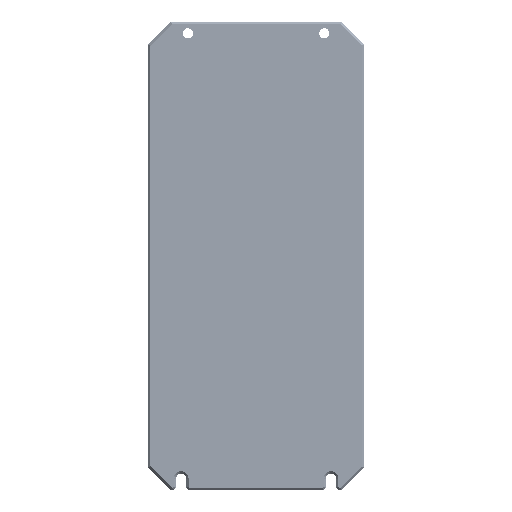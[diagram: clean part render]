
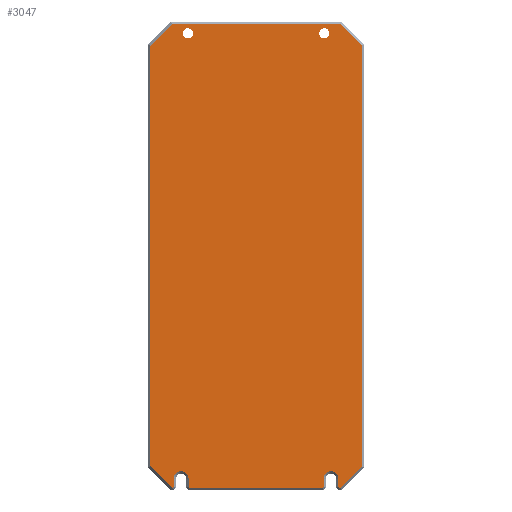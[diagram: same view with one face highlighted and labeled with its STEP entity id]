
A CAD part, front view. The second image highlights one B-rep face of the part: STEP entity #3047.
In plain terms, the highlighted planar face has unit normal (0, -1, 0).
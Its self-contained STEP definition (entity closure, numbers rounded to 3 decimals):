
#226=CARTESIAN_POINT('',(-30.,-10.,98.5));
#227=DIRECTION('',(0.,1.,0.));
#228=DIRECTION('',(1.,0.,0.));
#229=AXIS2_PLACEMENT_3D('',#226,#227,#228);
#234=CARTESIAN_POINT('',(-30.,-10.,98.5));
#235=DIRECTION('',(0.,1.,0.));
#236=DIRECTION('',(-1.,0.,0.));
#237=AXIS2_PLACEMENT_3D('',#234,#235,#236);
#242=CARTESIAN_POINT('',(30.,-10.,98.5));
#243=DIRECTION('',(0.,1.,0.));
#244=DIRECTION('',(1.,0.,0.));
#245=AXIS2_PLACEMENT_3D('',#242,#243,#244);
#250=CARTESIAN_POINT('',(30.,-10.,98.5));
#251=DIRECTION('',(0.,1.,0.));
#252=DIRECTION('',(-1.,0.,0.));
#253=AXIS2_PLACEMENT_3D('',#250,#251,#252);
#258=DIRECTION('',(0.707,0.,-0.707));
#259=VECTOR('',#258,0.586);
#260=CARTESIAN_POINT('',(36.25,-10.,-101.086));
#261=LINE('',#260,#259);
#265=DIRECTION('',(0.,0.,-1.));
#266=VECTOR('',#265,3.586);
#267=CARTESIAN_POINT('',(36.25,-10.,-97.5));
#268=LINE('',#267,#266);
#272=CARTESIAN_POINT('',(33.,-10.,-97.5));
#273=DIRECTION('',(0.,1.,0.));
#274=DIRECTION('',(-1.,0.,0.));
#275=AXIS2_PLACEMENT_3D('',#272,#273,#274);
#280=DIRECTION('',(0.,0.,1.));
#281=VECTOR('',#280,3.586);
#282=CARTESIAN_POINT('',(29.75,-10.,-101.086));
#283=LINE('',#282,#281);
#287=DIRECTION('',(0.707,0.,0.707));
#288=VECTOR('',#287,0.586);
#289=CARTESIAN_POINT('',(29.336,-10.,-101.5));
#290=LINE('',#289,#288);
#294=DIRECTION('',(1.,0.,0.));
#295=VECTOR('',#294,58.672);
#296=CARTESIAN_POINT('',(-29.336,-10.,-101.5));
#297=LINE('',#296,#295);
#301=DIRECTION('',(0.707,0.,-0.707));
#302=VECTOR('',#301,0.586);
#303=CARTESIAN_POINT('',(-29.75,-10.,-101.086));
#304=LINE('',#303,#302);
#308=DIRECTION('',(0.,0.,-1.));
#309=VECTOR('',#308,3.586);
#310=CARTESIAN_POINT('',(-29.75,-10.,-97.5));
#311=LINE('',#310,#309);
#315=CARTESIAN_POINT('',(-33.,-10.,-97.5));
#316=DIRECTION('',(0.,1.,0.));
#317=DIRECTION('',(-1.,0.,0.));
#318=AXIS2_PLACEMENT_3D('',#315,#316,#317);
#323=DIRECTION('',(0.,0.,1.));
#324=VECTOR('',#323,3.586);
#325=CARTESIAN_POINT('',(-36.25,-10.,-101.086));
#326=LINE('',#325,#324);
#330=DIRECTION('',(0.707,0.,0.707));
#331=VECTOR('',#330,0.586);
#332=CARTESIAN_POINT('',(-36.664,-10.,-101.5));
#333=LINE('',#332,#331);
#337=DIRECTION('',(1.,0.,0.));
#338=VECTOR('',#337,0.422);
#339=CARTESIAN_POINT('',(-37.086,-10.,-101.5));
#340=LINE('',#339,#338);
#344=DIRECTION('',(0.707,0.,-0.707));
#345=VECTOR('',#344,13.314);
#346=CARTESIAN_POINT('',(-46.5,-10.,-92.086));
#347=LINE('',#346,#345);
#351=DIRECTION('',(0.,0.,1.));
#352=VECTOR('',#351,185.172);
#353=CARTESIAN_POINT('',(-46.5,-10.,-92.086));
#354=LINE('',#353,#352);
#358=DIRECTION('',(-0.707,0.,-0.707));
#359=VECTOR('',#358,13.314);
#360=CARTESIAN_POINT('',(-37.086,-10.,102.5));
#361=LINE('',#360,#359);
#365=DIRECTION('',(1.,0.,0.));
#366=VECTOR('',#365,74.172);
#367=CARTESIAN_POINT('',(-37.086,-10.,102.5));
#368=LINE('',#367,#366);
#372=DIRECTION('',(-0.707,0.,0.707));
#373=VECTOR('',#372,13.314);
#374=CARTESIAN_POINT('',(46.5,-10.,93.086));
#375=LINE('',#374,#373);
#379=DIRECTION('',(0.,0.,-1.));
#380=VECTOR('',#379,185.172);
#381=CARTESIAN_POINT('',(46.5,-10.,93.086));
#382=LINE('',#381,#380);
#386=DIRECTION('',(0.707,0.,0.707));
#387=VECTOR('',#386,13.314);
#388=CARTESIAN_POINT('',(37.086,-10.,-101.5));
#389=LINE('',#388,#387);
#393=DIRECTION('',(1.,0.,0.));
#394=VECTOR('',#393,0.422);
#395=CARTESIAN_POINT('',(36.664,-10.,-101.5));
#396=LINE('',#395,#394);
#2854=CARTESIAN_POINT('',(-27.75,-10.,98.5));
#2855=CARTESIAN_POINT('',(-32.25,-10.,98.5));
#2856=VERTEX_POINT('',#2854);
#2857=VERTEX_POINT('',#2855);
#2858=CARTESIAN_POINT('',(32.25,-10.,98.5));
#2859=CARTESIAN_POINT('',(27.75,-10.,98.5));
#2860=VERTEX_POINT('',#2858);
#2861=VERTEX_POINT('',#2859);
#2878=CARTESIAN_POINT('',(36.25,-10.,-101.086));
#2879=CARTESIAN_POINT('',(36.664,-10.,-101.5));
#2880=VERTEX_POINT('',#2878);
#2881=VERTEX_POINT('',#2879);
#2888=CARTESIAN_POINT('',(37.086,-10.,-101.5));
#2889=VERTEX_POINT('',#2888);
#2892=CARTESIAN_POINT('',(46.5,-10.,-92.086));
#2893=VERTEX_POINT('',#2892);
#2894=CARTESIAN_POINT('',(46.5,-10.,93.086));
#2895=VERTEX_POINT('',#2894);
#2900=CARTESIAN_POINT('',(37.086,-10.,102.5));
#2901=VERTEX_POINT('',#2900);
#2902=CARTESIAN_POINT('',(-37.086,-10.,102.5));
#2903=VERTEX_POINT('',#2902);
#2906=CARTESIAN_POINT('',(-46.5,-10.,93.086));
#2907=VERTEX_POINT('',#2906);
#2910=CARTESIAN_POINT('',(-46.5,-10.,-92.086));
#2911=VERTEX_POINT('',#2910);
#2914=CARTESIAN_POINT('',(-37.086,-10.,-101.5));
#2915=VERTEX_POINT('',#2914);
#2920=CARTESIAN_POINT('',(-36.664,-10.,-101.5));
#2921=VERTEX_POINT('',#2920);
#2924=CARTESIAN_POINT('',(-36.25,-10.,-101.086));
#2925=VERTEX_POINT('',#2924);
#2930=CARTESIAN_POINT('',(-29.75,-10.,-97.5));
#2931=CARTESIAN_POINT('',(-29.75,-10.,-101.086));
#2932=VERTEX_POINT('',#2930);
#2933=VERTEX_POINT('',#2931);
#2934=CARTESIAN_POINT('',(-36.25,-10.,-97.5));
#2935=VERTEX_POINT('',#2934);
#2938=CARTESIAN_POINT('',(-29.336,-10.,-101.5));
#2939=VERTEX_POINT('',#2938);
#2944=CARTESIAN_POINT('',(29.336,-10.,-101.5));
#2945=VERTEX_POINT('',#2944);
#2948=CARTESIAN_POINT('',(29.75,-10.,-101.086));
#2949=VERTEX_POINT('',#2948);
#2952=CARTESIAN_POINT('',(36.25,-10.,-97.5));
#2953=VERTEX_POINT('',#2952);
#2954=CARTESIAN_POINT('',(29.75,-10.,-97.5));
#2955=VERTEX_POINT('',#2954);
#2989=CARTESIAN_POINT('',(0.,-10.,-92.5));
#2990=DIRECTION('',(0.,-1.,0.));
#2991=DIRECTION('',(1.,0.,0.));
#2992=AXIS2_PLACEMENT_3D('',#2989,#2990,#2991);
#2993=PLANE('',#2992);
#2995=ORIENTED_EDGE('',*,*,#2994,.F.);
#2997=ORIENTED_EDGE('',*,*,#2996,.F.);
#2999=ORIENTED_EDGE('',*,*,#2998,.F.);
#3001=ORIENTED_EDGE('',*,*,#3000,.F.);
#3003=ORIENTED_EDGE('',*,*,#3002,.F.);
#3005=ORIENTED_EDGE('',*,*,#3004,.F.);
#3007=ORIENTED_EDGE('',*,*,#3006,.F.);
#3009=ORIENTED_EDGE('',*,*,#3008,.F.);
#3011=ORIENTED_EDGE('',*,*,#3010,.F.);
#3013=ORIENTED_EDGE('',*,*,#3012,.F.);
#3015=ORIENTED_EDGE('',*,*,#3014,.F.);
#3017=ORIENTED_EDGE('',*,*,#3016,.F.);
#3019=ORIENTED_EDGE('',*,*,#3018,.F.);
#3020=ORIENTED_EDGE('',*,*,#2979,.T.);
#3022=ORIENTED_EDGE('',*,*,#3021,.F.);
#3024=ORIENTED_EDGE('',*,*,#3023,.T.);
#3026=ORIENTED_EDGE('',*,*,#3025,.F.);
#3028=ORIENTED_EDGE('',*,*,#3027,.T.);
#3030=ORIENTED_EDGE('',*,*,#3029,.F.);
#3032=ORIENTED_EDGE('',*,*,#3031,.F.);
#3033=EDGE_LOOP('',(#2995,#2997,#2999,#3001,#3003,#3005,#3007,#3009,#3011,#3013,
#3015,#3017,#3019,#3020,#3022,#3024,#3026,#3028,#3030,#3032));
#3034=FACE_OUTER_BOUND('',#3033,.F.);
#3036=ORIENTED_EDGE('',*,*,#3035,.F.);
#3038=ORIENTED_EDGE('',*,*,#3037,.F.);
#3039=EDGE_LOOP('',(#3036,#3038));
#3040=FACE_BOUND('',#3039,.F.);
#3042=ORIENTED_EDGE('',*,*,#3041,.F.);
#3044=ORIENTED_EDGE('',*,*,#3043,.F.);
#3045=EDGE_LOOP('',(#3042,#3044));
#3046=FACE_BOUND('',#3045,.F.);
#230=CIRCLE('',#229,2.25);
#238=CIRCLE('',#237,2.25);
#246=CIRCLE('',#245,2.25);
#254=CIRCLE('',#253,2.25);
#276=CIRCLE('',#275,3.25);
#319=CIRCLE('',#318,3.25);
#2979=EDGE_CURVE('',#2911,#2907,#354,.T.);
#2994=EDGE_CURVE('',#2880,#2881,#261,.T.);
#2996=EDGE_CURVE('',#2953,#2880,#268,.T.);
#2998=EDGE_CURVE('',#2955,#2953,#276,.T.);
#3000=EDGE_CURVE('',#2949,#2955,#283,.T.);
#3002=EDGE_CURVE('',#2945,#2949,#290,.T.);
#3004=EDGE_CURVE('',#2939,#2945,#297,.T.);
#3006=EDGE_CURVE('',#2933,#2939,#304,.T.);
#3008=EDGE_CURVE('',#2932,#2933,#311,.T.);
#3010=EDGE_CURVE('',#2935,#2932,#319,.T.);
#3012=EDGE_CURVE('',#2925,#2935,#326,.T.);
#3014=EDGE_CURVE('',#2921,#2925,#333,.T.);
#3016=EDGE_CURVE('',#2915,#2921,#340,.T.);
#3018=EDGE_CURVE('',#2911,#2915,#347,.T.);
#3021=EDGE_CURVE('',#2903,#2907,#361,.T.);
#3023=EDGE_CURVE('',#2903,#2901,#368,.T.);
#3025=EDGE_CURVE('',#2895,#2901,#375,.T.);
#3027=EDGE_CURVE('',#2895,#2893,#382,.T.);
#3029=EDGE_CURVE('',#2889,#2893,#389,.T.);
#3031=EDGE_CURVE('',#2881,#2889,#396,.T.);
#3035=EDGE_CURVE('',#2860,#2861,#246,.T.);
#3037=EDGE_CURVE('',#2861,#2860,#254,.T.);
#3041=EDGE_CURVE('',#2856,#2857,#230,.T.);
#3043=EDGE_CURVE('',#2857,#2856,#238,.T.);
#3047=ADVANCED_FACE('',(#3034,#3040,#3046),#2993,.T.);
